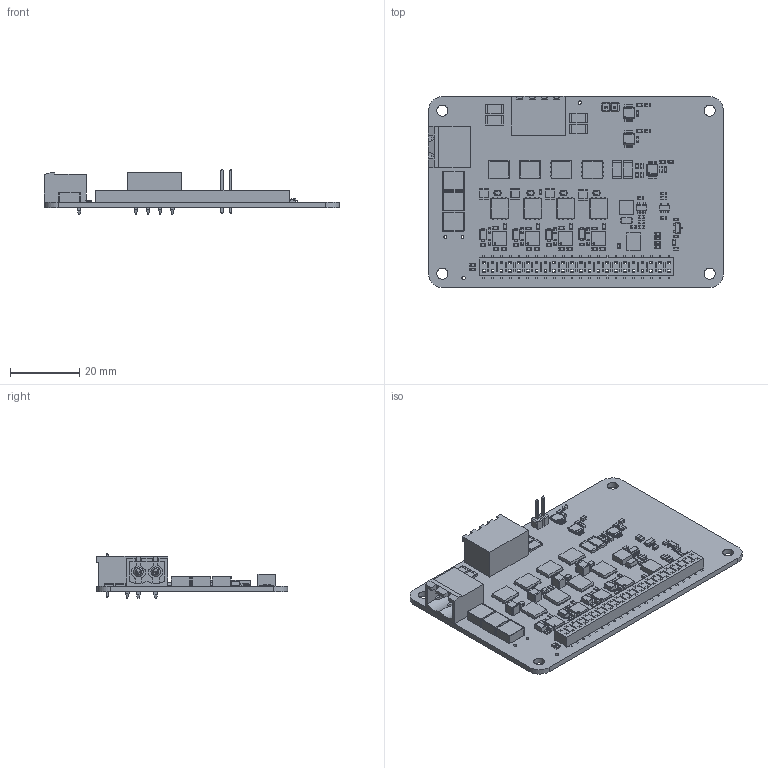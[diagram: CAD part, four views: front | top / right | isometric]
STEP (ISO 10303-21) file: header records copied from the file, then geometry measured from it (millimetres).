
FILE_DESCRIPTION(('Open CASCADE Model'),'2;1');
FILE_NAME('Open CASCADE Shape Model','2017-10-18T18:38:24',('Author'),( 'Open CASCADE'),'Open CASCADE STEP processor 6.8','Open CASCADE 6.8' ,'Unknown');
FILE_SCHEMA(('AUTOMOTIVE_DESIGN { 1 0 10303 214 1 1 1 1 }'));
Length unit declared in the file: millimetre
Products named in the file (182): PCB; Board; R24; RESC1608_EIA_0603; R23; R19; R18; R14; R13; R9; R8; R4; R3; C4; 836598152; Terminal; Open_CASCADE_STEP_translator_6.8_9.1.1; Open_CASCADE_STEP_translator_6.8_9.1.2; Mid_Body; Open_CASCADE_STEP_translator_6.8_9.2.1; C3; C2; L1; 1073259496; Extruded; Q8; User_Library-TDSON-8-1; Q7; Q6; Q5; Q4; Q3; Q2; Q1; J3; 31182104; J2; STEP-691313710002-rev1_RGB659217; 691313710002; 6913137100xx_PIN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
Assembly tree (294 placements, depth 5):
  PCB
    Board
    R24
      RESC1608_EIA_0603
    R23
      RESC1608_EIA_0603
    R19
      RESC1608_EIA_0603
    R18
      RESC1608_EIA_0603
    R14
      RESC1608_EIA_0603
    R13
      RESC1608_EIA_0603
    R9
      RESC1608_EIA_0603
    R8
      RESC1608_EIA_0603
    R4
      RESC1608_EIA_0603
    R3
      RESC1608_EIA_0603
    C4
      836598152
        Terminal
          Open_CASCADE_STEP_translator_6.8_9.1.1
          Open_CASCADE_STEP_translator_6.8_9.1.2
        Mid_Body
          Open_CASCADE_STEP_translator_6.8_9.2.1
    C3
      836598152
        Terminal
          Open_CASCADE_STEP_translator_6.8_9.1.1
          Open_CASCADE_STEP_translator_6.8_9.1.2
        Mid_Body
          Open_CASCADE_STEP_translator_6.8_9.2.1
    C2
      836598152
        Terminal
          Open_CASCADE_STEP_translator_6.8_9.1.1
          Open_CASCADE_STEP_translator_6.8_9.1.2
        Mid_Body
          Open_CASCADE_STEP_translator_6.8_9.2.1
    L1
      1073259496
        Extruded
    Q8
      User_Library-TDSON-8-1
    Q7
      User_Library-TDSON-8-1
    Q6
      User_Library-TDSON-8-1
    Q5
      User_Library-TDSON-8-1
    Q4
      User_Library-TDSON-8-1
    Q3
      User_Library-TDSON-8-1
    Q2
      User_Library-TDSON-8-1
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Bounding box: 85 x 55.1 x 13 mm (x, y, z)
Volume: 10751.4 mm3; surface area: 18942.3 mm2
Topology: 334 solids, 382 shells, 7405 faces, 17504 edges, 10446 vertices
Faces by surface type: plane 5383, cylinder 1520, sphere 406, bspline 94, cone 2
Full cylindrical faces by diameter (mm): 0.4 x3, 0.512 x4, 0.75 x2, 0.8 x2, 0.9 x2, 1 x2, 1.1 x44, 1.5 x4, 1.6 x2, 1.8 x2, 2.75 x2, 3.2 x4
Entity records: 94221 total; most frequent: CARTESIAN_POINT 17326, ORIENTED_EDGE 12869, DIRECTION 12547, EDGE_CURVE 6443, LINE 5525, VECTOR 5525, VERTEX_POINT 4052, AXIS2_PLACEMENT_3D 3511
